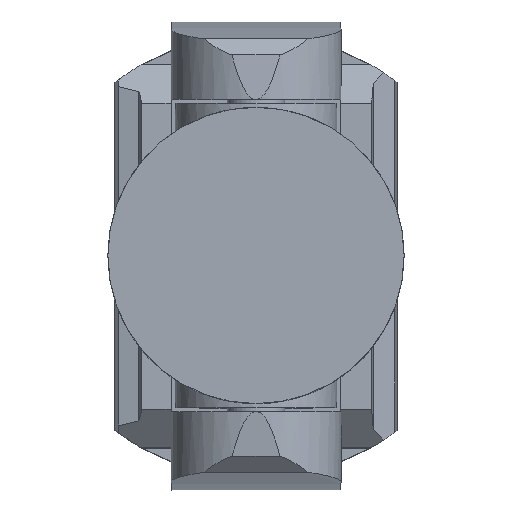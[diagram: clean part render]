
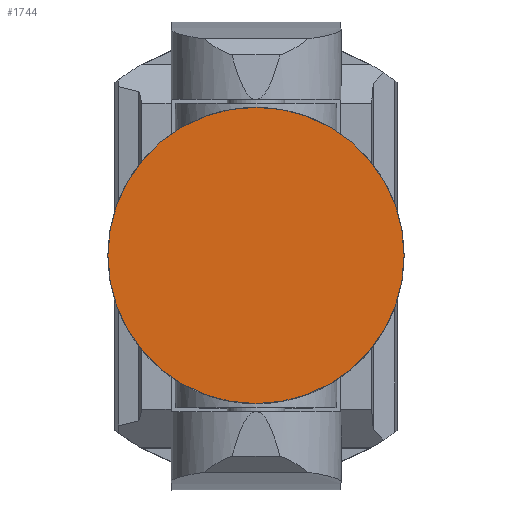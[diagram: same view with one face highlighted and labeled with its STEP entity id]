
A CAD part, top view. The second image highlights one B-rep face of the part: STEP entity #1744.
In plain terms, the highlighted planar face has unit normal (0, 0, 1).
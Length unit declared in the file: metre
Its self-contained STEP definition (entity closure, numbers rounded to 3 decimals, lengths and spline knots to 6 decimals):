
#153=CIRCLE('',#2022,0.112916);
#239=FACE_OUTER_BOUND('',#343,.T.);
#343=EDGE_LOOP('',(#1537));
#835=VERTEX_POINT('',#3234);
#1071=EDGE_CURVE('',#835,#835,#153,.T.);
#1537=ORIENTED_EDGE('',*,*,#1071,.F.);
#1661=PLANE('',#2026);
#1744=ADVANCED_FACE('',(#239),#1661,.F.);
#2022=AXIS2_PLACEMENT_3D('',#3236,#2508,#2509);
#2026=AXIS2_PLACEMENT_3D('',#3314,#2517,#2518);
#2508=DIRECTION('center_axis',(0.,0.,-1.));
#2509=DIRECTION('ref_axis',(-1.,0.,0.));
#2517=DIRECTION('center_axis',(0.,0.,-1.));
#2518=DIRECTION('ref_axis',(-1.,0.,0.));
#3234=CARTESIAN_POINT('',(0.112916,0.,0.359366));
#3236=CARTESIAN_POINT('Origin',(0.,0.,0.359366));
#3314=CARTESIAN_POINT('Origin',(0.,0.,0.359366));
